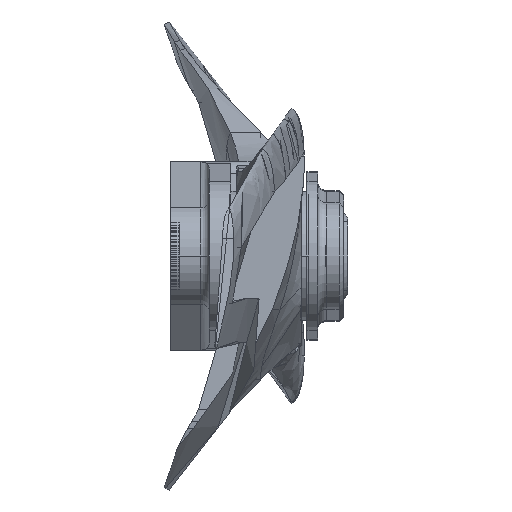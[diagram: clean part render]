
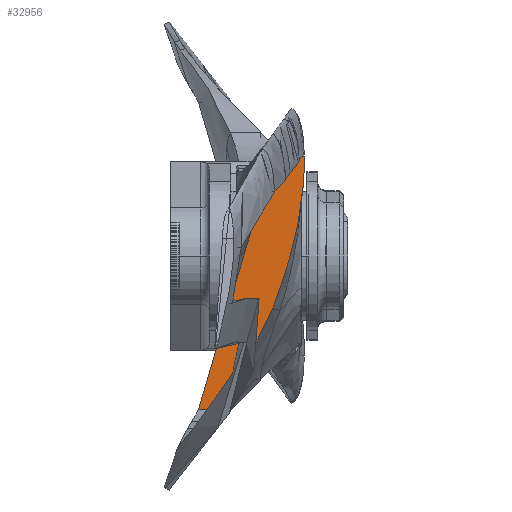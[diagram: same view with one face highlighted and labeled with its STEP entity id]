
A CAD part, left-side view. The second image highlights one B-rep face of the part: STEP entity #32956.
In plain terms, the highlighted planar face has unit normal (-1, 0, 0) as drawn and (1, 0, 0) by its records, which use the part's own axes.
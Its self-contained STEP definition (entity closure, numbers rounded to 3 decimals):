
#6 = CARTESIAN_POINT ( 'NONE',  ( 118.054, 35.648, -18.829 ) ) ;
#152 = CARTESIAN_POINT ( 'NONE',  ( 118.054, -12.47, 5.092 ) ) ;
#283 = EDGE_CURVE ( 'NONE', #18948, #41643, #34499, .T. ) ;
#1808 = CARTESIAN_POINT ( 'NONE',  ( 118.054, -22.923, 5.724 ) ) ;
#1932 = CARTESIAN_POINT ( 'NONE',  ( 118.054, 12.389, -1.712 ) ) ;
#2008 = CARTESIAN_POINT ( 'NONE',  ( 118.054, -18.072, 5.628 ) ) ;
#2130 = CARTESIAN_POINT ( 'NONE',  ( 118.054, 17.376, -3.801 ) ) ;
#2498 = CARTESIAN_POINT ( 'NONE',  ( 118.054, 35.648, -18.829 ) ) ;
#2550 = CARTESIAN_POINT ( 'NONE',  ( 118.054, 13.394, -2.111 ) ) ;
#2666 = DIRECTION ( 'NONE',  ( 0., 0., 1. ) ) ;
#3289 = EDGE_CURVE ( 'NONE', #41135, #33873, #9545, .T. ) ;
#4770 = CARTESIAN_POINT ( 'NONE',  ( 118.054, -17.611, 5.595 ) ) ;
#5282 = CARTESIAN_POINT ( 'NONE',  ( 118.054, 23.404, -15.202 ) ) ;
#5955 = CARTESIAN_POINT ( 'NONE',  ( 118.054, 34.722, -12.59 ) ) ;
#6234 = VECTOR ( 'NONE', #21761, 1000. ) ;
#6738 = CARTESIAN_POINT ( 'NONE',  ( 118.054, 12.389, -1.712 ) ) ;
#8157 = CARTESIAN_POINT ( 'NONE',  ( 118.054, 35.648, -45.358 ) ) ;
#8739 = CARTESIAN_POINT ( 'NONE',  ( 118.054, 14.893, -2.732 ) ) ;
#9121 = ORIENTED_EDGE ( 'NONE', *, *, #283, .T. ) ;
#9545 = B_SPLINE_CURVE_WITH_KNOTS ( 'NONE', 3,
 ( #22709, #32697, #152, #32494, #13152, #22921, #26119, #39073, #16325, #6738 ),
 .UNSPECIFIED., .F., .F.,
 ( 4, 2, 2, 2, 4 ),
 ( 0., 0.008, 0.015, 0.023, 0.031 ),
 .UNSPECIFIED. ) ;
#9740 = CARTESIAN_POINT ( 'NONE',  ( 118.054, -23.154, -45.358 ) ) ;
#11898 = CARTESIAN_POINT ( 'NONE',  ( 118.054, 8.729, -10.789 ) ) ;
#11952 = CARTESIAN_POINT ( 'NONE',  ( 118.054, 12.892, -1.911 ) ) ;
#12076 = CARTESIAN_POINT ( 'NONE',  ( 118.054, 35.648, -45.358 ) ) ;
#12356 = CARTESIAN_POINT ( 'NONE',  ( 118.054, 33.786, -12.049 ) ) ;
#12375 = VERTEX_POINT ( 'NONE', #21003 ) ;
#13152 = CARTESIAN_POINT ( 'NONE',  ( 118.054, -4.845, 3.696 ) ) ;
#14795 = CARTESIAN_POINT ( 'NONE',  ( 118.054, -23.154, 5.719 ) ) ;
#15079 = EDGE_CURVE ( 'NONE', #33873, #41643, #39668, .T. ) ;
#15494 = CARTESIAN_POINT ( 'NONE',  ( 118.054, 33.192, -18.127 ) ) ;
#15697 = CARTESIAN_POINT ( 'NONE',  ( 118.054, -6.001, -6.566 ) ) ;
#15809 = EDGE_CURVE ( 'NONE', #18948, #29127, #18271, .T. ) ;
#16325 = CARTESIAN_POINT ( 'NONE',  ( 118.054, 9.985, -0.761 ) ) ;
#18107 = CARTESIAN_POINT ( 'NONE',  ( 118.054, 22.301, -6.034 ) ) ;
#18182 = CARTESIAN_POINT ( 'NONE',  ( 118.054, -22.23, 5.732 ) ) ;
#18263 = CARTESIAN_POINT ( 'NONE',  ( 118.054, -23.154, -1.527 ) ) ;
#18271 = B_SPLINE_CURVE_WITH_KNOTS ( 'NONE', 3,
 ( #2498, #15494, #38004, #28452, #5282, #24433, #18468, #41418, #11898, #35020, #18890, #31846, #15697, #37591, #37375, #31431, #28655, #18263 ),
 .UNSPECIFIED., .F., .F.,
 ( 4, 2, 2, 2, 2, 2, 2, 2, 4 ),
 ( 0., 0.008, 0.015, 0.023, 0.031, 0.038, 0.046, 0.054, 0.061 ),
 .UNSPECIFIED. ) ;
#18468 = CARTESIAN_POINT ( 'NONE',  ( 118.054, 16.075, -12.967 ) ) ;
#18517 = CARTESIAN_POINT ( 'NONE',  ( 118.054, 35.648, -13.148 ) ) ;
#18890 = CARTESIAN_POINT ( 'NONE',  ( 118.054, 1.369, -8.658 ) ) ;
#18948 = VERTEX_POINT ( 'NONE', #6 ) ;
#21003 = CARTESIAN_POINT ( 'NONE',  ( 118.054, -23.154, 5.719 ) ) ;
#21509 = CARTESIAN_POINT ( 'NONE',  ( 118.054, 25.218, -7.451 ) ) ;
#21713 = CARTESIAN_POINT ( 'NONE',  ( 118.054, 16.386, -3.367 ) ) ;
#21761 = DIRECTION ( 'NONE',  ( 0., 0., 1. ) ) ;
#22709 = CARTESIAN_POINT ( 'NONE',  ( 118.054, -17.611, 5.595 ) ) ;
#22921 = CARTESIAN_POINT ( 'NONE',  ( 118.054, 0.165, 2.435 ) ) ;
#23206 = EDGE_CURVE ( 'NONE', #29127, #12375, #38846, .T. ) ;
#24357 = CARTESIAN_POINT ( 'NONE',  ( 118.054, -19.457, 5.7 ) ) ;
#24433 = CARTESIAN_POINT ( 'NONE',  ( 118.054, 18.518, -13.712 ) ) ;
#25112 = CARTESIAN_POINT ( 'NONE',  ( 118.054, 23.28, -6.493 ) ) ;
#25228 = VECTOR ( 'NONE', #32057, 1000. ) ;
#25613 = B_SPLINE_CURVE_WITH_KNOTS ( 'NONE', 3,
 ( #14795, #1808, #40715, #18182, #31145, #27344, #28169, #33904, #24357, #37296, #2008, #4770 ),
 .UNSPECIFIED., .F., .F.,
 ( 4, 2, 2, 2, 2, 4 ),
 ( 0., 0.001, 0.001, 0.003, 0.004, 0.006 ),
 .UNSPECIFIED. ) ;
#25665 = DIRECTION ( 'NONE',  ( -1., 0., 0. ) ) ;
#26119 = CARTESIAN_POINT ( 'NONE',  ( 118.054, 2.648, 1.713 ) ) ;
#26695 = ORIENTED_EDGE ( 'NONE', *, *, #3289, .F. ) ;
#27344 = CARTESIAN_POINT ( 'NONE',  ( 118.054, -21.305, 5.739 ) ) ;
#27429 = ORIENTED_EDGE ( 'NONE', *, *, #40791, .F. ) ;
#28169 = CARTESIAN_POINT ( 'NONE',  ( 118.054, -20.843, 5.735 ) ) ;
#28220 = FACE_OUTER_BOUND ( 'NONE', #34907, .T. ) ;
#28452 = CARTESIAN_POINT ( 'NONE',  ( 118.054, 25.847, -15.947 ) ) ;
#28458 = ORIENTED_EDGE ( 'NONE', *, *, #15809, .F. ) ;
#28655 = CARTESIAN_POINT ( 'NONE',  ( 118.054, -20.731, -2.34 ) ) ;
#28703 = CARTESIAN_POINT ( 'NONE',  ( 118.054, -23.154, -1.527 ) ) ;
#29127 = VERTEX_POINT ( 'NONE', #28703 ) ;
#30046 = ORIENTED_EDGE ( 'NONE', *, *, #15079, .F. ) ;
#31069 = CARTESIAN_POINT ( 'NONE',  ( 118.054, 19.35, -4.684 ) ) ;
#31145 = CARTESIAN_POINT ( 'NONE',  ( 118.054, -21.999, 5.735 ) ) ;
#31431 = CARTESIAN_POINT ( 'NONE',  ( 118.054, -18.286, -3.077 ) ) ;
#31484 = CARTESIAN_POINT ( 'NONE',  ( 118.054, 20.336, -5.13 ) ) ;
#31846 = CARTESIAN_POINT ( 'NONE',  ( 118.054, -3.543, -7.258 ) ) ;
#31897 = CARTESIAN_POINT ( 'NONE',  ( 118.054, 30.955, -10.47 ) ) ;
#32057 = DIRECTION ( 'NONE',  ( 0., 0., 1. ) ) ;
#32064 = AXIS2_PLACEMENT_3D ( 'NONE', #12076, #25665, #2666 ) ;
#32494 = CARTESIAN_POINT ( 'NONE',  ( 118.054, -7.374, 4.235 ) ) ;
#32697 = CARTESIAN_POINT ( 'NONE',  ( 118.054, -15.032, 5.409 ) ) ;
#32843 = CARTESIAN_POINT ( 'NONE',  ( 118.054, -17.611, 5.595 ) ) ;
#32956 = ADVANCED_FACE ( 'NONE', ( #28220 ), #41189, .F. ) ;
#33873 = VERTEX_POINT ( 'NONE', #40926 ) ;
#33904 = CARTESIAN_POINT ( 'NONE',  ( 118.054, -19.919, 5.713 ) ) ;
#34499 = LINE ( 'NONE', #8157, #6234 ) ;
#34907 = EDGE_LOOP ( 'NONE', ( #9121, #30046, #26695, #27429, #35841, #28458 ) ) ;
#35020 = CARTESIAN_POINT ( 'NONE',  ( 118.054, 3.824, -9.364 ) ) ;
#35100 = CARTESIAN_POINT ( 'NONE',  ( 118.054, 35.648, -13.148 ) ) ;
#35841 = ORIENTED_EDGE ( 'NONE', *, *, #23206, .F. ) ;
#37296 = CARTESIAN_POINT ( 'NONE',  ( 118.054, -18.534, 5.654 ) ) ;
#37375 = CARTESIAN_POINT ( 'NONE',  ( 118.054, -13.379, -4.498 ) ) ;
#37591 = CARTESIAN_POINT ( 'NONE',  ( 118.054, -10.919, -5.185 ) ) ;
#38004 = CARTESIAN_POINT ( 'NONE',  ( 118.054, 30.741, -17.409 ) ) ;
#38052 = CARTESIAN_POINT ( 'NONE',  ( 118.054, 31.901, -10.992 ) ) ;
#38482 = CARTESIAN_POINT ( 'NONE',  ( 118.054, 26.181, -7.942 ) ) ;
#38846 = LINE ( 'NONE', #9740, #25228 ) ;
#39073 = CARTESIAN_POINT ( 'NONE',  ( 118.054, 7.557, 0.115 ) ) ;
#39668 = B_SPLINE_CURVE_WITH_KNOTS ( 'NONE', 3,
 ( #1932, #11952, #2550, #41692, #8739, #21713, #2130, #31069, #31484, #18107, #25112, #21509, #38482, #41467, #41266, #31897, #38052, #12356, #5955, #18517 ),
 .UNSPECIFIED., .F., .F.,
 ( 4, 2, 2, 2, 2, 2, 2, 2, 2, 4 ),
 ( 0., 0.002, 0.003, 0.006, 0.01, 0.013, 0.016, 0.019, 0.023, 0.026 ),
 .UNSPECIFIED. ) ;
#40715 = CARTESIAN_POINT ( 'NONE',  ( 118.054, -22.692, 5.727 ) ) ;
#40791 = EDGE_CURVE ( 'NONE', #12375, #41135, #25613, .T. ) ;
#40926 = CARTESIAN_POINT ( 'NONE',  ( 118.054, 12.389, -1.712 ) ) ;
#41135 = VERTEX_POINT ( 'NONE', #32843 ) ;
#41189 = PLANE ( 'NONE',  #32064 ) ;
#41266 = CARTESIAN_POINT ( 'NONE',  ( 118.054, 29.054, -9.442 ) ) ;
#41418 = CARTESIAN_POINT ( 'NONE',  ( 118.054, 11.18, -11.507 ) ) ;
#41467 = CARTESIAN_POINT ( 'NONE',  ( 118.054, 28.099, -8.938 ) ) ;
#41643 = VERTEX_POINT ( 'NONE', #35100 ) ;
#41692 = CARTESIAN_POINT ( 'NONE',  ( 118.054, 14.395, -2.522 ) ) ;
